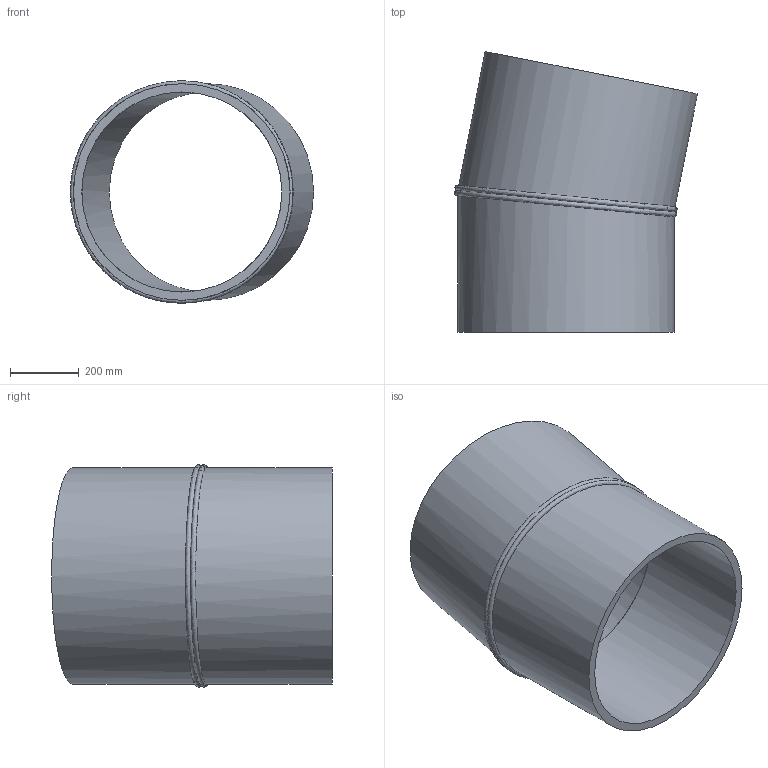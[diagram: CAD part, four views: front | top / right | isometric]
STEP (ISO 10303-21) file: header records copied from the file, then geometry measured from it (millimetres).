
FILE_DESCRIPTION(/* description */ ('Unknown'),/* implementation_level */ '2;1');
FILE_NAME(/* name */ 'Curva 11.25° a settore DE630 SDR26',/* time_stamp */ '2022-07-22T15:44:35+02:00',/* author */ ('Unknown'),/* organization */ ('Unknown'),/* preprocessor_version */ 'ST-DEVELOPER v18.102',/* originating_system */ 'Solid Edge',/* authorisation */ 'Unknown');
FILE_SCHEMA (('AUTOMOTIVE_DESIGN {1 0 10303 214 3 1 1}'));
Length unit declared in the file: millimetre
Products named in the file (2): Curva 11.25° a settore DE630 SDR26; Tubo x Gomito 11.25° DE630 SDR26
Assembly tree (2 placements, depth 2):
  Curva 11.25° a settore DE630 SDR26
    Tubo x Gomito 11.25° DE630 SDR26  x2
Bounding box: 707.24 x 816.18 x 646.45 mm (x, y, z)
Volume: 35356159.2 mm3; surface area: 3126910.6 mm2
Topology: 2 solids, 2 shells, 10 faces, 20 edges, 14 vertices
Faces by surface type: cylinder 4, plane 4, bspline 2
Full cylindrical faces by diameter (mm): 581.8 x2, 630 x2
Entity records: 1297 total; most frequent: CARTESIAN_POINT 1160, DIRECTION 20, ORIENTED_EDGE 10, EDGE_LOOP 10, FACE_BOUND 10, AXIS2_PLACEMENT_3D 10, EDGE_CURVE 5, VERTEX_POINT 5
